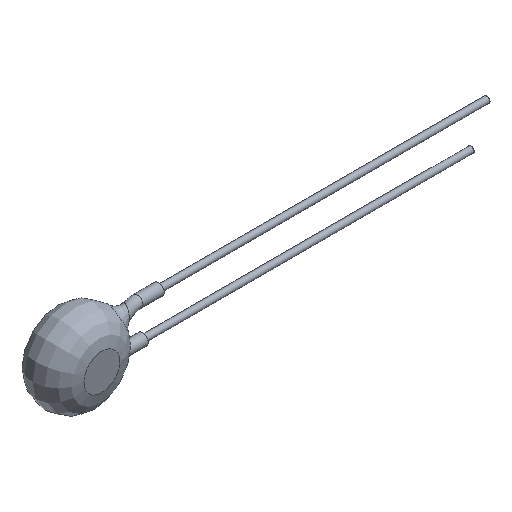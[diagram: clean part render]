
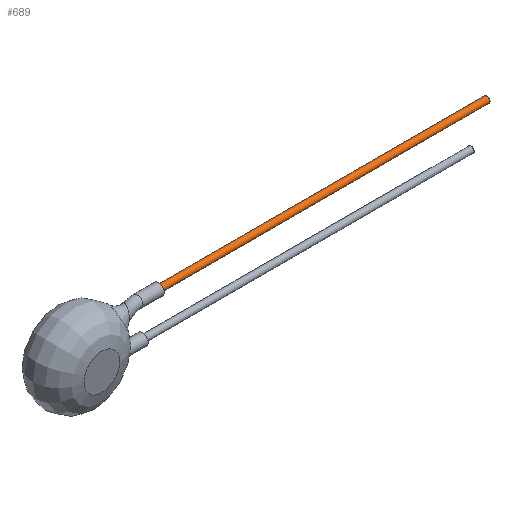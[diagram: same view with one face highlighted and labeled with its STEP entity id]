
A CAD part, isometric view. The second image highlights one B-rep face of the part: STEP entity #689.
In plain terms, the highlighted cylindrical face has radius 0.3 mm (diameter 0.6 mm), a full revolution.
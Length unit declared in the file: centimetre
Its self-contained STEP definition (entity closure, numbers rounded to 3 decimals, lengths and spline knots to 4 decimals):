
#640=CARTESIAN_POINT('',(0.725,-0.03,0.22));
#641=VERTEX_POINT('',#640);
#642=CARTESIAN_POINT('',(0.725,-0.03,0.25));
#643=DIRECTION('',(1.0,0.0,0.0));
#644=DIRECTION('',(0.0,1.0,0.0));
#645=AXIS2_PLACEMENT_3D('',#642,#643,#644);
#646=CIRCLE('',#645,0.03);
#647=EDGE_CURVE('',#641,#641,#646,.T.);
#670=CARTESIAN_POINT('',(3.925,-0.03,0.25));
#671=DIRECTION('',(-1.0,0.,0.));
#672=DIRECTION('',(0.0,1.0,0.0));
#673=AXIS2_PLACEMENT_3D('',#670,#671,#672);
#674=CYLINDRICAL_SURFACE('',#673,0.03);
#675=ORIENTED_EDGE('',*,*,#647,.T.);
#676=EDGE_LOOP('',(#675));
#677=FACE_OUTER_BOUND('',#676,.T.);
#678=CARTESIAN_POINT('',(3.925,-0.06,0.25));
#679=VERTEX_POINT('',#678);
#680=CARTESIAN_POINT('',(3.925,-0.03,0.25));
#681=DIRECTION('',(1.0,0.0,0.0));
#682=DIRECTION('',(0.0,1.0,0.0));
#683=AXIS2_PLACEMENT_3D('',#680,#681,#682);
#684=CIRCLE('',#683,0.03);
#685=EDGE_CURVE('',#679,#679,#684,.T.);
#686=ORIENTED_EDGE('',*,*,#685,.F.);
#687=EDGE_LOOP('',(#686));
#688=FACE_BOUND('',#687,.T.);
#689=ADVANCED_FACE('',(#677,#688),#674,.T.);
